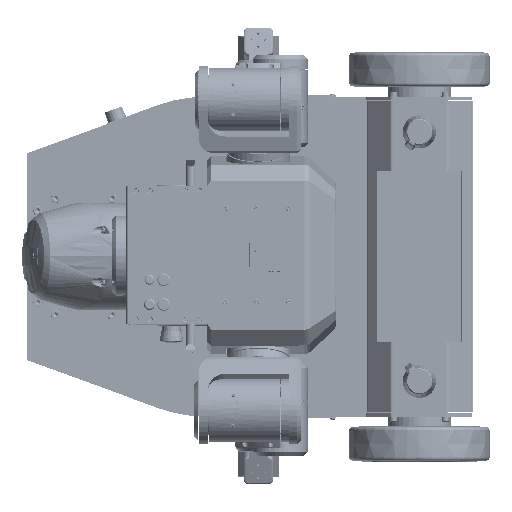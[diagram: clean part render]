
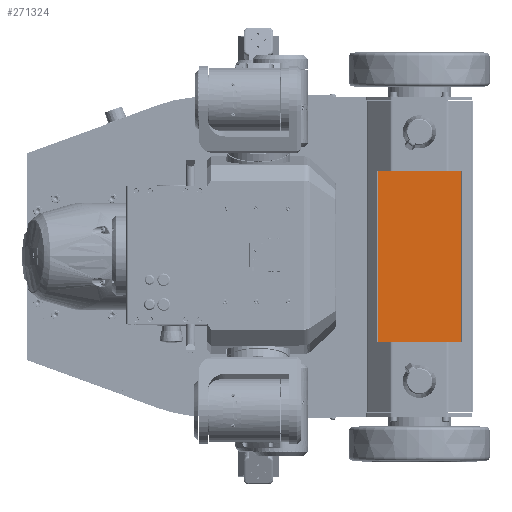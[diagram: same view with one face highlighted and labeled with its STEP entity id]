
A CAD part, top view. The second image highlights one B-rep face of the part: STEP entity #271324.
In plain terms, the highlighted planar face has unit normal (0, 0, 1).
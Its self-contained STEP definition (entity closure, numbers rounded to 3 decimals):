
#12122=PLANE('',#290160);
#22425=FACE_OUTER_BOUND('',#38258,.T.);
#38258=EDGE_LOOP('',(#183651,#183652,#183653,#183654));
#54265=LINE('',#427820,#75404);
#54266=LINE('',#427822,#75405);
#54281=LINE('',#427863,#75420);
#56241=LINE('',#441112,#77380);
#75404=VECTOR('',#316347,1.);
#75405=VECTOR('',#316350,1.);
#75420=VECTOR('',#316385,1.);
#77380=VECTOR('',#323411,1.);
#108911=VERTEX_POINT('',#427784);
#108916=VERTEX_POINT('',#427794);
#108919=VERTEX_POINT('',#427801);
#108920=VERTEX_POINT('',#427804);
#135413=EDGE_CURVE('',#108911,#108919,#54265,.T.);
#135414=EDGE_CURVE('',#108916,#108920,#54266,.T.);
#135435=EDGE_CURVE('',#108920,#108919,#54281,.T.);
#139080=EDGE_CURVE('',#108911,#108916,#56241,.T.);
#183651=ORIENTED_EDGE('',*,*,#135435,.F.);
#183652=ORIENTED_EDGE('',*,*,#135414,.F.);
#183653=ORIENTED_EDGE('',*,*,#139080,.F.);
#183654=ORIENTED_EDGE('',*,*,#135413,.T.);
#271324=ADVANCED_FACE('',(#22425),#12122,.F.);
#290160=AXIS2_PLACEMENT_3D('',#441653,#323549,#323550);
#316347=DIRECTION('',(0.,1.,0.));
#316350=DIRECTION('',(0.,1.,0.));
#316385=DIRECTION('',(1.,0.,0.));
#323411=DIRECTION('',(-1.,0.,0.));
#323549=DIRECTION('center_axis',(0.,0.,
-1.));
#323550=DIRECTION('ref_axis',(0.,-1.,0.));
#427784=CARTESIAN_POINT('',(534.149,-120.5,-89.349));
#427794=CARTESIAN_POINT('',(415.851,-120.5,-89.349));
#427801=CARTESIAN_POINT('',(534.148,120.5,-89.349));
#427804=CARTESIAN_POINT('',(415.852,120.5,-89.349));
#427820=CARTESIAN_POINT('',(534.149,-60.25,-89.349));
#427822=CARTESIAN_POINT('',(415.851,-60.25,-89.349));
#427863=CARTESIAN_POINT('',(474.999,120.5,-89.349));
#441112=CARTESIAN_POINT('',(474.999,-120.5,-89.349));
#441653=CARTESIAN_POINT('Origin',(474.999,0.,
-89.349));
